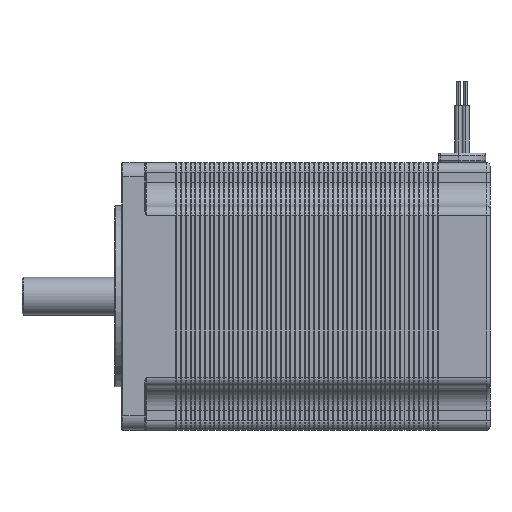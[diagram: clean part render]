
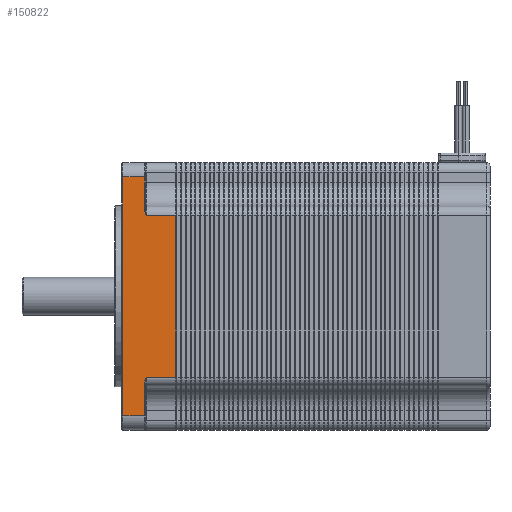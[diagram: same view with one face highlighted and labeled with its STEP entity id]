
A CAD part, left-side view. The second image highlights one B-rep face of the part: STEP entity #150822.
In plain terms, the highlighted planar face has unit normal (-1, 0, 0).
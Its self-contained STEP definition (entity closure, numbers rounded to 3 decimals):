
#44 = DIRECTION ( 'NONE',  ( 0., 0., -1. ) ) ;
#1293 = CARTESIAN_POINT ( 'NONE',  ( -28.15, 72.3, -17. ) ) ;
#1811 = VECTOR ( 'NONE', #53402, 1000. ) ;
#1898 = CARTESIAN_POINT ( 'NONE',  ( -28.15, 77.5, -17. ) ) ;
#9861 = EDGE_CURVE ( 'NONE', #108488, #19304, #15486, .T. ) ;
#11209 = VECTOR ( 'NONE', #24753, 1000. ) ;
#11816 = LINE ( 'NONE', #141010, #56964 ) ;
#12003 = CARTESIAN_POINT ( 'NONE',  ( -28.15, 72.642, -17.823 ) ) ;
#13901 = ORIENTED_EDGE ( 'NONE', *, *, #33826, .F. ) ;
#15486 = LINE ( 'NONE', #87095, #24516 ) ;
#16282 = DIRECTION ( 'NONE',  ( 1., 0., 0. ) ) ;
#16809 = ORIENTED_EDGE ( 'NONE', *, *, #162407, .T. ) ;
#19304 = VERTEX_POINT ( 'NONE', #102843 ) ;
#21744 = ORIENTED_EDGE ( 'NONE', *, *, #112090, .T. ) ;
#22632 = CARTESIAN_POINT ( 'NONE',  ( -28.15, 72.7, 18.04 ) ) ;
#23204 = DIRECTION ( 'NONE',  ( 0., 1., 0. ) ) ;
#24516 = VECTOR ( 'NONE', #29086, 1000. ) ;
#24753 = DIRECTION ( 'NONE',  ( 0., 0., 1. ) ) ;
#26422 = ORIENTED_EDGE ( 'NONE', *, *, #121603, .F. ) ;
#29086 = DIRECTION ( 'NONE',  ( 0., 0., -1. ) ) ;
#31465 = VERTEX_POINT ( 'NONE', #1293 ) ;
#33826 = EDGE_CURVE ( 'NONE', #160855, #19304, #109421, .T. ) ;
#34110 = DIRECTION ( 'NONE',  ( 0., 1., 0. ) ) ;
#36737 = CARTESIAN_POINT ( 'NONE',  ( -28.15, 72.7, -17. ) ) ;
#36975 = CARTESIAN_POINT ( 'NONE',  ( -28.15, 77.3, 25.15 ) ) ;
#41183 = ORIENTED_EDGE ( 'NONE', *, *, #9861, .T. ) ;
#49784 = CARTESIAN_POINT ( 'NONE',  ( -28.15, 72.7, -18.04 ) ) ;
#51258 = VERTEX_POINT ( 'NONE', #85598 ) ;
#52301 = CARTESIAN_POINT ( 'NONE',  ( -28.15, 72.395, 17.202 ) ) ;
#53163 = EDGE_CURVE ( 'NONE', #160855, #170102, #76671, .T. ) ;
#53402 = DIRECTION ( 'NONE',  ( 0., -1., 0. ) ) ;
#54201 = CARTESIAN_POINT ( 'NONE',  ( -28.15, 72.395, -17.201 ) ) ;
#55338 = CARTESIAN_POINT ( 'NONE',  ( -28.15, 72.7, -25.15 ) ) ;
#56031 = DIRECTION ( 'NONE',  ( 0., -1., 0. ) ) ;
#56964 = VECTOR ( 'NONE', #142270, 1000. ) ;
#57708 = LINE ( 'NONE', #134555, #129857 ) ;
#58807 = CARTESIAN_POINT ( 'NONE',  ( -28.15, 72.7, -18.265 ) ) ;
#59945 = B_SPLINE_CURVE_WITH_KNOTS ( 'NONE', 3,
 ( #98270, #49784, #12003, #155585, #54201, #126615 ),
 .UNSPECIFIED., .F., .F.,
 ( 4, 2, 4 ),
 ( 0., 0.001, 0.001 ),
 .UNSPECIFIED. ) ;
#63404 = CARTESIAN_POINT ( 'NONE',  ( -28.15, 72.7, 18.265 ) ) ;
#63528 = ORIENTED_EDGE ( 'NONE', *, *, #186536, .T. ) ;
#64040 = FACE_OUTER_BOUND ( 'NONE', #97366, .T. ) ;
#64706 = DIRECTION ( 'NONE',  ( 0., 0., 1. ) ) ;
#64774 = LINE ( 'NONE', #180469, #1811 ) ;
#68509 = ORIENTED_EDGE ( 'NONE', *, *, #147219, .T. ) ;
#68794 = CARTESIAN_POINT ( 'NONE',  ( -28.15, 72.3, 17. ) ) ;
#69188 = VECTOR ( 'NONE', #64706, 1000. ) ;
#71074 = VECTOR ( 'NONE', #34110, 1000. ) ;
#76671 = LINE ( 'NONE', #36737, #11209 ) ;
#82778 = LINE ( 'NONE', #120757, #69188 ) ;
#83966 = B_SPLINE_CURVE_WITH_KNOTS ( 'NONE', 3,
 ( #94454, #52301, #181232, #179399, #22632, #137890 ),
 .UNSPECIFIED., .F., .F.,
 ( 4, 2, 4 ),
 ( 0., 0.001, 0.001 ),
 .UNSPECIFIED. ) ;
#85375 = VECTOR ( 'NONE', #23204, 1000. ) ;
#85598 = CARTESIAN_POINT ( 'NONE',  ( -28.15, 72.7, 25.15 ) ) ;
#87095 = CARTESIAN_POINT ( 'NONE',  ( -28.15, 77.3, -25.15 ) ) ;
#92675 = CARTESIAN_POINT ( 'NONE',  ( -28.15, 72.5, -25.15 ) ) ;
#93623 = EDGE_CURVE ( 'NONE', #119151, #101794, #83966, .T. ) ;
#94454 = CARTESIAN_POINT ( 'NONE',  ( -28.15, 72.3, 17. ) ) ;
#96715 = VERTEX_POINT ( 'NONE', #130584 ) ;
#97366 = EDGE_LOOP ( 'NONE', ( #16809, #41183, #13901, #111811, #63528, #68509, #156483, #26422, #102252, #21744 ) ) ;
#97494 = EDGE_CURVE ( 'NONE', #148499, #96715, #82778, .T. ) ;
#98270 = CARTESIAN_POINT ( 'NONE',  ( -28.15, 72.7, -18.265 ) ) ;
#101794 = VERTEX_POINT ( 'NONE', #63404 ) ;
#102252 = ORIENTED_EDGE ( 'NONE', *, *, #93623, .T. ) ;
#102843 = CARTESIAN_POINT ( 'NONE',  ( -28.15, 77.3, -25.15 ) ) ;
#108488 = VERTEX_POINT ( 'NONE', #36975 ) ;
#109421 = LINE ( 'NONE', #92675, #71074 ) ;
#111811 = ORIENTED_EDGE ( 'NONE', *, *, #53163, .T. ) ;
#112090 = EDGE_CURVE ( 'NONE', #101794, #51258, #11816, .T. ) ;
#119151 = VERTEX_POINT ( 'NONE', #68794 ) ;
#120757 = CARTESIAN_POINT ( 'NONE',  ( -28.15, 66.1, -17. ) ) ;
#121603 = EDGE_CURVE ( 'NONE', #119151, #96715, #64774, .T. ) ;
#123644 = LINE ( 'NONE', #140919, #85375 ) ;
#126615 = CARTESIAN_POINT ( 'NONE',  ( -28.15, 72.3, -17. ) ) ;
#129857 = VECTOR ( 'NONE', #56031, 1000. ) ;
#130340 = PLANE ( 'NONE',  #170276 ) ;
#130584 = CARTESIAN_POINT ( 'NONE',  ( -28.15, 66.1, 17. ) ) ;
#134555 = CARTESIAN_POINT ( 'NONE',  ( -28.15, 77.5, -17. ) ) ;
#137890 = CARTESIAN_POINT ( 'NONE',  ( -28.15, 72.7, 18.265 ) ) ;
#140919 = CARTESIAN_POINT ( 'NONE',  ( -28.15, 72.5, 25.15 ) ) ;
#141010 = CARTESIAN_POINT ( 'NONE',  ( -28.15, 72.7, -17. ) ) ;
#142270 = DIRECTION ( 'NONE',  ( 0., 0., 1. ) ) ;
#147219 = EDGE_CURVE ( 'NONE', #31465, #148499, #57708, .T. ) ;
#148499 = VERTEX_POINT ( 'NONE', #167903 ) ;
#150822 = ADVANCED_FACE ( 'NONE', ( #64040 ), #130340, .F. ) ;
#155585 = CARTESIAN_POINT ( 'NONE',  ( -28.15, 72.491, -17.403 ) ) ;
#156483 = ORIENTED_EDGE ( 'NONE', *, *, #97494, .T. ) ;
#160855 = VERTEX_POINT ( 'NONE', #55338 ) ;
#162407 = EDGE_CURVE ( 'NONE', #51258, #108488, #123644, .T. ) ;
#167903 = CARTESIAN_POINT ( 'NONE',  ( -28.15, 66.1, -17. ) ) ;
#170102 = VERTEX_POINT ( 'NONE', #58807 ) ;
#170276 = AXIS2_PLACEMENT_3D ( 'NONE', #1898, #16282, #44 ) ;
#179399 = CARTESIAN_POINT ( 'NONE',  ( -28.15, 72.642, 17.823 ) ) ;
#180469 = CARTESIAN_POINT ( 'NONE',  ( -28.15, 77.5, 17. ) ) ;
#181232 = CARTESIAN_POINT ( 'NONE',  ( -28.15, 72.491, 17.403 ) ) ;
#186536 = EDGE_CURVE ( 'NONE', #170102, #31465, #59945, .T. ) ;
